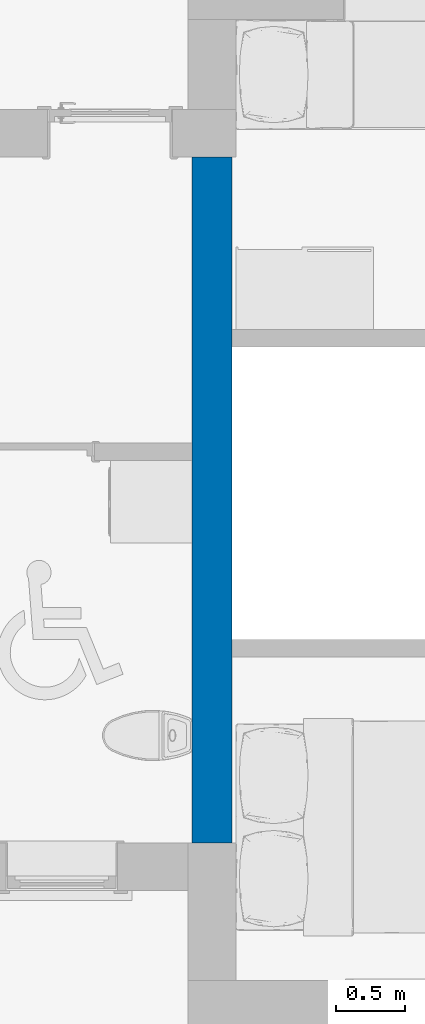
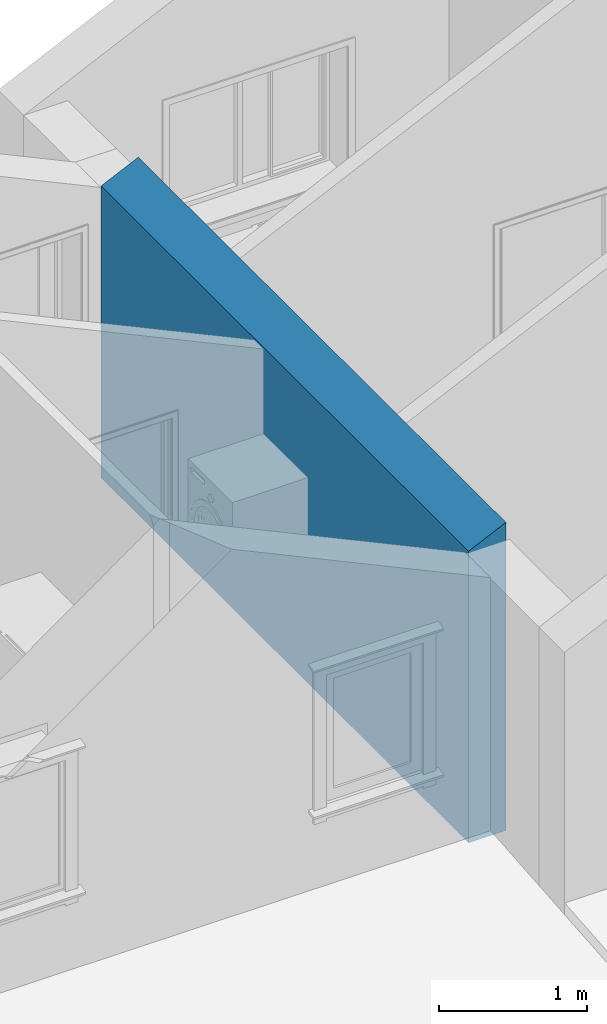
# One storey, part 6 of 44: 1 wall.
"""IFC2X3 building model written with IfcOpenShell, lengths in millimetres."""

from ifc_helpers import new_model, entity, si_unit, converted_unit, direction, frame, frame_2d, origin, place, context, subcontext, project, spatial, polyline, rectangle, extrude, clip, bounded_halfspace, material, layer, layer_set, layer_usage, type_object, element, save


model = new_model("IFC2X3")

# Units and contexts
model_context = context("Model", 3, precision=0.01, world=origin(), true_north=direction((0.0, 1.0)))
body_context = subcontext(model_context, "Body", "Model", "MODEL_VIEW")
ifc_project = project(units=[si_unit("LENGTHUNIT", "METRE", prefix="MILLI"), si_unit("AREAUNIT", "SQUARE_METRE"), si_unit("VOLUMEUNIT", "CUBIC_METRE"), converted_unit("PLANEANGLEUNIT", "DEGREE", entity("IfcPlaneAngleMeasure", 0.017453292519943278), si_unit("PLANEANGLEUNIT", "RADIAN"), dimensions=[0, 0, 0, 0, 0, 0, 0])], contexts=[model_context])

# Site, building, storey
site_placement = place(None, origin())
site = spatial("IfcSite", under=ifc_project, at=site_placement, Name="Default", CompositionType="ELEMENT")
building_placement = place(site_placement, origin())
building = spatial("IfcBuilding", under=site, at=building_placement, CompositionType="ELEMENT")
storey_placement = place(building_placement, frame((0.0, 0.0, 2681.0)))
storey = spatial("IfcBuildingStorey", under=building, at=storey_placement, Name="Et. 2", CompositionType="ELEMENT", Elevation=2681.0)

# Wall
ifc_material_1 = material(Name="Vegg - Gips - Innvendig - Hvit")
ifc_layer_1 = layer(ifc_material_1, 13.000000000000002)
ifc_layer_2 = layer(ifc_material_1, 13.000000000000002)
ifc_material_2 = material(Name="Vegg - Stender - Isolert")
ifc_layer_3 = layer(ifc_material_2, 100.0)
ifc_material_3 = material(Name="Vegg - Luftsjikt")
ifc_layer_4 = layer(ifc_material_3, 40.0)
ifc_layer_5 = layer(ifc_material_2, 100.0)
ifc_layer_6 = layer(ifc_material_1, 13.000000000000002)
ifc_layer_7 = layer(ifc_material_1, 13.000000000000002)
ifc_layer_set = layer_set([ifc_layer_1, ifc_layer_2, ifc_layer_3, ifc_layer_4, ifc_layer_5, ifc_layer_6, ifc_layer_7], Name="Basic Wall:24-GSISIG-26_100_40_100_26")
ifc_layer_usage = layer_usage(ifc_layer_set, "AXIS2", "NEGATIVE", 146.00000000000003)
wall_type = type_object("IfcWallType", Name="Basic Wall:24-GSISIG-26_100_40_100_26", PredefinedType="STANDARD", material=ifc_layer_set)
wall_placement = place(storey_placement, frame((16178.0095867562, 11754.180957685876, 0.0), z_axis=(0.0, 0.0, 1.0), x_axis=(0.0, 1.0, 0.0)))
element("IfcWallStandardCase", 1, at=wall_placement, inside=storey, type_object=wall_type, material=ifc_layer_usage, Name="Basic Wall:24-GSISIG-26_100_40_100_26", context=body_context, shape_type="Clipping", body=[
    clip(extrude(rectangle(XDim=4982.000000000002, YDim=291.9999999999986, at=frame_2d((2491.000000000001, -4.121147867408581e-13), x_axis=(-1.0, 0.0))), origin(), (0.0, 0.0, 1.0), 2548.7521429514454), bounded_halfspace(frame((0.0, -146.0, 2548.7521429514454), z_axis=(0.0, 0.42261826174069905, 0.9063077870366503), x_axis=(-1.0, 0.0, 0.0)), False, frame((0.0, -146.0, 2548.7521429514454)), polyline([(0.0, 0.0), (1351.8777614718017, 0.0), (1477.877761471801, 0.0), (3602.0, 0.0), (3728.0, 0.0), (4982.0, 0.0), (4982.0, 292.0), (0.0, 292.0), (0.0, 0.0)]))),
])

save(model, "model.ifc")
